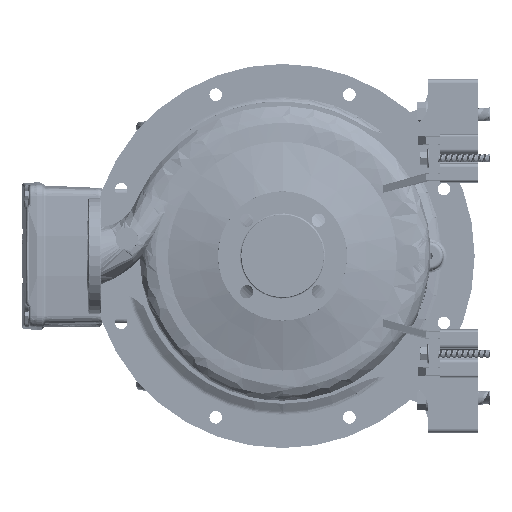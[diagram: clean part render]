
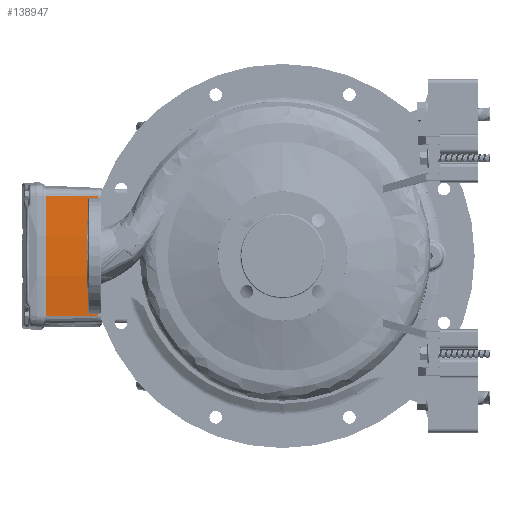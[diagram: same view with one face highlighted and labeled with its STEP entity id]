
A CAD part, left-side view. The second image highlights one B-rep face of the part: STEP entity #138947.
In plain terms, the highlighted conical face has half-angle 1 degrees and reference radius 832 mm.
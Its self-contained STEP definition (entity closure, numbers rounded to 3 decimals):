
#1647 = CARTESIAN_POINT ( 'NONE',  ( 85.378, 263.878, 114.079 ) ) ;
#4500 = DIRECTION ( 'NONE',  ( -0.002, 1., 0.017 ) ) ;
#10595 = EDGE_CURVE ( 'NONE', #160882, #63917, #23633, .T. ) ;
#17689 = AXIS2_PLACEMENT_3D ( 'NONE', #145142, #66239, #160176 ) ;
#18580 = VERTEX_POINT ( 'NONE', #160351 ) ;
#18797 = VERTEX_POINT ( 'NONE', #1647 ) ;
#23633 = CIRCLE ( 'NONE', #119926, 831.795 ) ;
#25139 = AXIS2_PLACEMENT_3D ( 'NONE', #53548, #160750, #79224 ) ;
#27127 = CARTESIAN_POINT ( 'NONE',  ( 85.535, 351., 115.592 ) ) ;
#31055 = DIRECTION ( 'NONE',  ( 0., -1., 0. ) ) ;
#36016 = ORIENTED_EDGE ( 'NONE', *, *, #65539, .T. ) ;
#42096 = EDGE_LOOP ( 'NONE', ( #111348, #139099, #89559, #36016 ) ) ;
#45264 = LINE ( 'NONE', #137444, #113102 ) ;
#53548 = CARTESIAN_POINT ( 'NONE',  ( 0., 263.878, -712. ) ) ;
#55198 = VECTOR ( 'NONE', #109491, 1000. ) ;
#57378 = CARTESIAN_POINT ( 'NONE',  ( -85.514, 339.235, 115.387 ) ) ;
#63917 = VERTEX_POINT ( 'NONE', #57378 ) ;
#65539 = EDGE_CURVE ( 'NONE', #18580, #18797, #124161, .T. ) ;
#66239 = DIRECTION ( 'NONE',  ( 0., 1., 0. ) ) ;
#71778 = CARTESIAN_POINT ( 'NONE',  ( 0., 339.235, -712. ) ) ;
#79224 = DIRECTION ( 'NONE',  ( -1., 0., 0. ) ) ;
#87547 = FACE_OUTER_BOUND ( 'NONE', #42096, .T. ) ;
#89559 = ORIENTED_EDGE ( 'NONE', *, *, #98846, .F. ) ;
#89833 = EDGE_CURVE ( 'NONE', #18797, #160882, #106037, .T. ) ;
#91299 = CONICAL_SURFACE ( 'NONE', #17689, 832., 0.017 ) ;
#93359 = DIRECTION ( 'NONE',  ( -1., 0., 0. ) ) ;
#98846 = EDGE_CURVE ( 'NONE', #18580, #63917, #45264, .T. ) ;
#106037 = LINE ( 'NONE', #27127, #55198 ) ;
#109491 = DIRECTION ( 'NONE',  ( 0.002, 1., 0.017 ) ) ;
#111348 = ORIENTED_EDGE ( 'NONE', *, *, #89833, .T. ) ;
#113102 = VECTOR ( 'NONE', #4500, 1000. ) ;
#119926 = AXIS2_PLACEMENT_3D ( 'NONE', #71778, #31055, #93359 ) ;
#124161 = CIRCLE ( 'NONE', #25139, 830.479 ) ;
#137444 = CARTESIAN_POINT ( 'NONE',  ( -85.535, 351., 115.592 ) ) ;
#138947 = ADVANCED_FACE ( 'NONE', ( #87547 ), #91299, .T. ) ;
#139099 = ORIENTED_EDGE ( 'NONE', *, *, #10595, .T. ) ;
#145142 = CARTESIAN_POINT ( 'NONE',  ( 0., 351., -712. ) ) ;
#147360 = CARTESIAN_POINT ( 'NONE',  ( 85.514, 339.235, 115.387 ) ) ;
#160176 = DIRECTION ( 'NONE',  ( -1., 0., 0. ) ) ;
#160351 = CARTESIAN_POINT ( 'NONE',  ( -85.378, 263.878, 114.079 ) ) ;
#160750 = DIRECTION ( 'NONE',  ( 0., 1., 0. ) ) ;
#160882 = VERTEX_POINT ( 'NONE', #147360 ) ;
